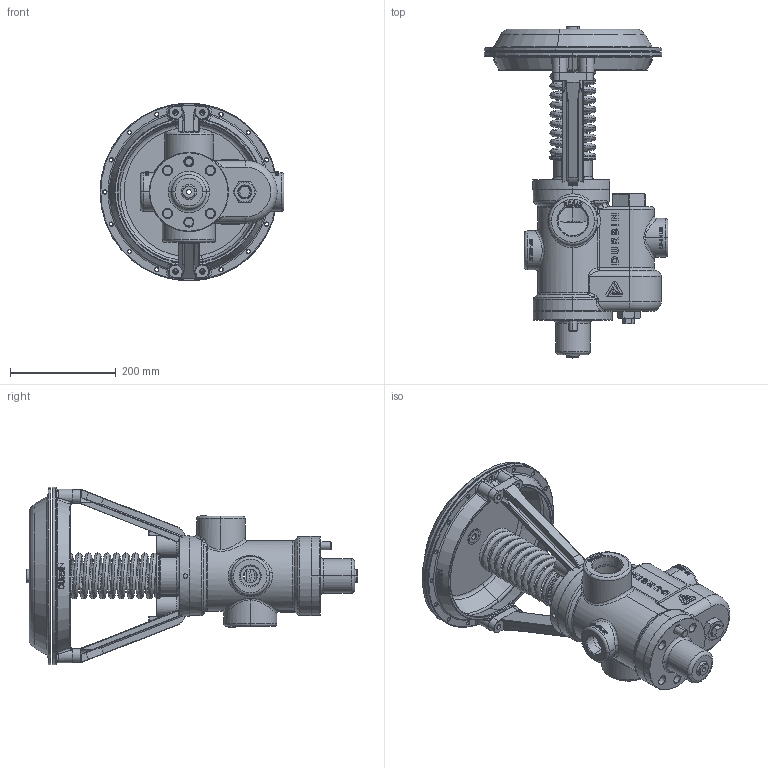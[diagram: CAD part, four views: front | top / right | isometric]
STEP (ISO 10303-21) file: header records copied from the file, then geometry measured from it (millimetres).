
FILE_DESCRIPTION (( 'STEP AP214' ), '1' );
FILE_NAME ('D014-6002_.STEP', '2020-04-29T17:12:37', ( '' ), ( '' ), 'SwSTEP 2.0', 'SolidWorks 2012', '' );
FILE_SCHEMA (( 'AUTOMOTIVE_DESIGN' ));
Length unit declared in the file: inch
Products named in the file (1): D014-6002_
Bounding box: 346.96 x 626.59 x 335.28 mm (x, y, z)
Surface area: 803323.1 mm2 (no closed solid volume)
Topology: 0 solids, 33 shells, 1226 faces, 4937 edges, 3609 vertices
Faces by surface type: plane 370, cylinder 336, bspline 236, cone 140, torus 128, sphere 16
Entity records: 98298 total; most frequent: CARTESIAN_POINT 45489, ORIENTED_EDGE 7325, DIRECTION 6719, EDGE_CURVE 4917, VERTEX_POINT 3608, AXIS2_PLACEMENT_3D 2483, LINE 1753, VECTOR 1753
